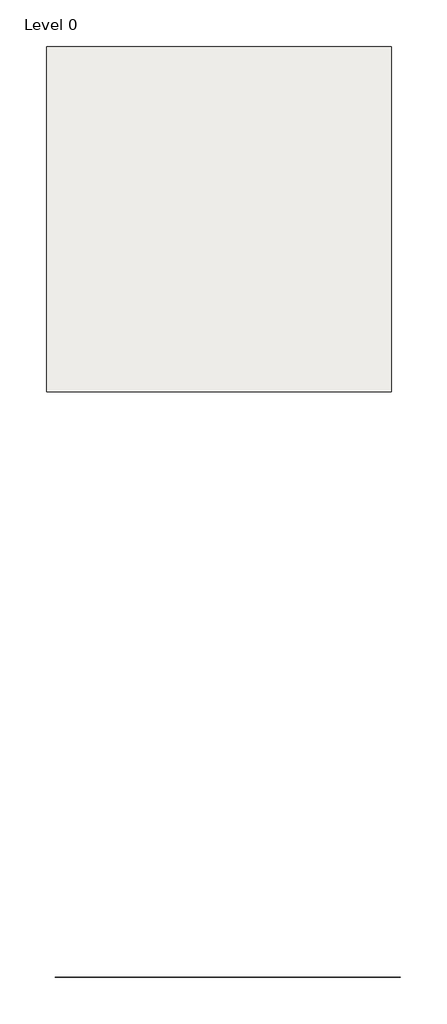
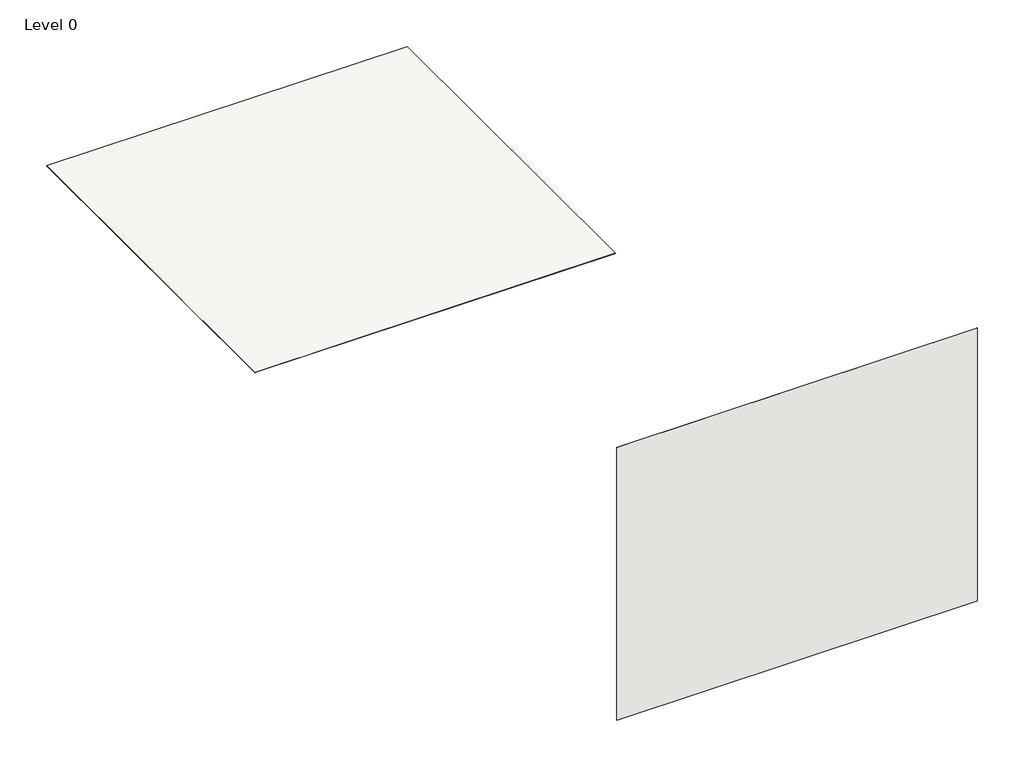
# One storey: 2 coverings.
"""IFC4 building model written with IfcOpenShell, lengths in millimetres."""

from ifc_helpers import new_model, si_unit, frame, origin, origin_with_axes, place, context, project, spatial, polyline, outline, extrude, element, save

model = new_model("IFC4")

# Units and contexts
model_context = context("Model", 3, world=origin())
ifc_project = project(units=[si_unit("LENGTHUNIT", "METRE", prefix="MILLI")], contexts=[model_context])

# Site, building, storey
site = spatial("IfcSite", under=ifc_project)
building = spatial("IfcBuilding", under=site)
storey = spatial("IfcBuildingStorey", under=building, Name="Level 0", Elevation=0.0)

# Coverings
placement = place(None, origin())
element("IfcCovering", 1, ObjectType="NBS_DeltaMembraneSystemsLtd_ButylRubberAdhesiveTapes_KosterJointTape20", at=placement, inside=storey, context=model_context, shape_type="SweptSolid", body=[
    extrude(outline(polyline([(1524.0, -4724.0), (1524.0, -2224.0), (4024.0, -2224.0), (4024.0, -4724.0), (1524.0, -4724.0)])), frame((0.0, 0.0, -0.8), z_axis=(0.0, 0.0, 1.0), x_axis=(1.0, 0.0, 0.0)), (0.0, 0.0, 1.0), 0.8),
])
element("IfcCovering", 2, ObjectType="NBS_DeltaMembraneSystemsLtd_ButylRubberAdhesiveTapes_KosterJointTape20", at=placement, inside=storey, context=model_context, shape_type="SweptSolid", body=[
    extrude(outline(polyline([(1586.5574695, -8961.9485482), (4086.5574695, -8961.9485482), (4086.5574695, -8962.7485482), (1586.5574695, -8962.7485482), (1586.5574695, -8961.9485482)])), origin_with_axes(), (0.0, 0.0, 1.0), 2000.0),
])

save(model, "model.ifc")
